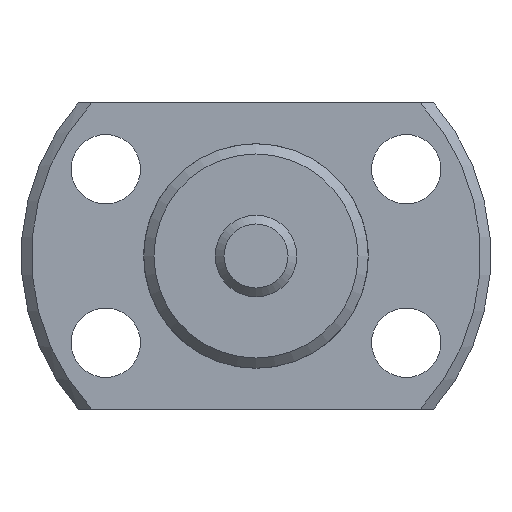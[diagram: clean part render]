
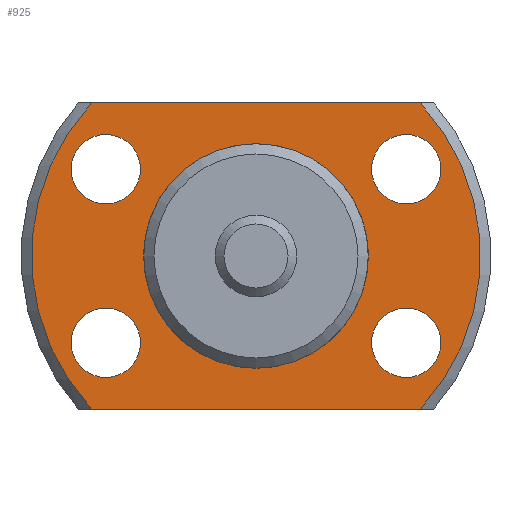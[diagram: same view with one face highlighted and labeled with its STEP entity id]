
A CAD part, left-side view. The second image highlights one B-rep face of the part: STEP entity #925.
In plain terms, the highlighted planar face has unit normal (-1, 0, 0).
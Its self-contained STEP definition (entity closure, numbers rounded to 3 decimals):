
#75=LINE('',#1607,#117);
#76=LINE('',#1611,#118);
#117=VECTOR('',#1281,1000.);
#118=VECTOR('',#1284,1000.);
#268=ORIENTED_EDGE('',*,*,#476,.T.);
#269=ORIENTED_EDGE('',*,*,#477,.T.);
#270=ORIENTED_EDGE('',*,*,#478,.T.);
#271=ORIENTED_EDGE('',*,*,#479,.T.);
#272=ORIENTED_EDGE('',*,*,#465,.F.);
#273=ORIENTED_EDGE('',*,*,#480,.F.);
#274=ORIENTED_EDGE('',*,*,#481,.F.);
#275=ORIENTED_EDGE('',*,*,#482,.F.);
#276=ORIENTED_EDGE('',*,*,#459,.T.);
#459=EDGE_CURVE('',#572,#572,#641,.T.);
#465=EDGE_CURVE('',#577,#578,#644,.T.);
#476=EDGE_CURVE('',#587,#587,#650,.T.);
#477=EDGE_CURVE('',#588,#588,#651,.T.);
#478=EDGE_CURVE('',#589,#589,#652,.T.);
#479=EDGE_CURVE('',#590,#590,#653,.T.);
#480=EDGE_CURVE('',#591,#577,#75,.T.);
#481=EDGE_CURVE('',#592,#591,#654,.T.);
#482=EDGE_CURVE('',#578,#592,#76,.T.);
#572=VERTEX_POINT('',#1550);
#577=VERTEX_POINT('',#1564);
#578=VERTEX_POINT('',#1566);
#587=VERTEX_POINT('',#1600);
#588=VERTEX_POINT('',#1602);
#589=VERTEX_POINT('',#1604);
#590=VERTEX_POINT('',#1606);
#591=VERTEX_POINT('',#1608);
#592=VERTEX_POINT('',#1610);
#641=CIRCLE('',#1038,5.25);
#644=CIRCLE('',#1042,11.);
#650=CIRCLE('',#1053,1.7);
#651=CIRCLE('',#1054,1.7);
#652=CIRCLE('',#1055,1.7);
#653=CIRCLE('',#1056,1.7);
#654=CIRCLE('',#1057,11.);
#716=EDGE_LOOP('',(#268));
#717=EDGE_LOOP('',(#269));
#718=EDGE_LOOP('',(#270));
#719=EDGE_LOOP('',(#271));
#720=EDGE_LOOP('',(#272,#273,#274,#275));
#721=EDGE_LOOP('',(#276));
#814=FACE_BOUND('',#716,.T.);
#815=FACE_BOUND('',#717,.T.);
#816=FACE_BOUND('',#718,.T.);
#817=FACE_BOUND('',#719,.T.);
#818=FACE_BOUND('',#720,.T.);
#819=FACE_BOUND('',#721,.T.);
#877=PLANE('',#1052);
#925=ADVANCED_FACE('',(#814,#815,#816,#817,#818,#819),#877,.F.);
#1038=AXIS2_PLACEMENT_3D('',#1549,#1239,#1240);
#1042=AXIS2_PLACEMENT_3D('',#1565,#1249,#1250);
#1052=AXIS2_PLACEMENT_3D('',#1598,#1271,#1272);
#1053=AXIS2_PLACEMENT_3D('',#1599,#1273,#1274);
#1054=AXIS2_PLACEMENT_3D('',#1601,#1275,#1276);
#1055=AXIS2_PLACEMENT_3D('',#1603,#1277,#1278);
#1056=AXIS2_PLACEMENT_3D('',#1605,#1279,#1280);
#1057=AXIS2_PLACEMENT_3D('',#1609,#1282,#1283);
#1239=DIRECTION('',(1.,0.,0.));
#1240=DIRECTION('',(0.,0.,-1.));
#1249=DIRECTION('',(1.,0.,0.));
#1250=DIRECTION('',(0.,0.,-1.));
#1271=DIRECTION('',(1.,0.,0.));
#1272=DIRECTION('',(0.,0.,-1.));
#1273=DIRECTION('',(1.,0.,0.));
#1274=DIRECTION('',(0.,0.,-1.));
#1275=DIRECTION('',(1.,0.,0.));
#1276=DIRECTION('',(0.,0.,-1.));
#1277=DIRECTION('',(1.,0.,0.));
#1278=DIRECTION('',(0.,0.,-1.));
#1279=DIRECTION('',(1.,0.,0.));
#1280=DIRECTION('',(0.,0.,-1.));
#1281=DIRECTION('',(0.,1.,0.));
#1282=DIRECTION('',(1.,0.,0.));
#1283=DIRECTION('',(0.,0.,-1.));
#1284=DIRECTION('',(0.,-1.,0.));
#1549=CARTESIAN_POINT('',(13.,0.,0.));
#1550=CARTESIAN_POINT('',(13.,0.,-5.25));
#1564=CARTESIAN_POINT('',(13.,8.047,-7.5));
#1565=CARTESIAN_POINT('',(13.,0.,0.));
#1566=CARTESIAN_POINT('',(13.,8.047,7.5));
#1598=CARTESIAN_POINT('',(13.,5.25,0.));
#1599=CARTESIAN_POINT('',(13.,-7.361,-4.25));
#1600=CARTESIAN_POINT('',(13.,-7.361,-5.95));
#1601=CARTESIAN_POINT('',(13.,-7.361,4.25));
#1602=CARTESIAN_POINT('',(13.,-7.361,2.55));
#1603=CARTESIAN_POINT('',(13.,7.361,-4.25));
#1604=CARTESIAN_POINT('',(13.,7.361,-5.95));
#1605=CARTESIAN_POINT('',(13.,7.361,4.25));
#1606=CARTESIAN_POINT('',(13.,7.361,2.55));
#1607=CARTESIAN_POINT('',(13.,-16.5,-7.5));
#1608=CARTESIAN_POINT('',(13.,-8.047,-7.5));
#1609=CARTESIAN_POINT('',(13.,0.,0.));
#1610=CARTESIAN_POINT('',(13.,-8.047,7.5));
#1611=CARTESIAN_POINT('',(13.,16.5,7.5));
